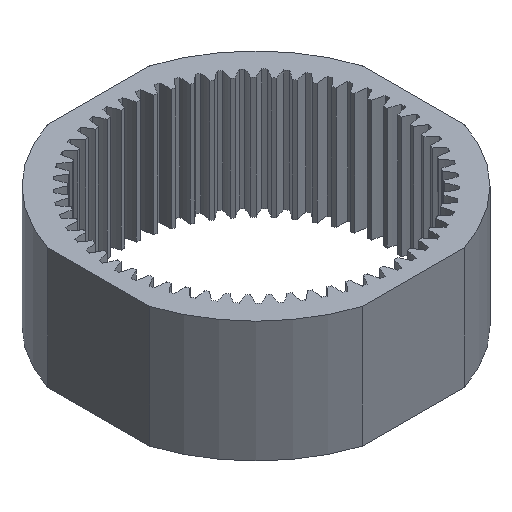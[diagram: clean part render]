
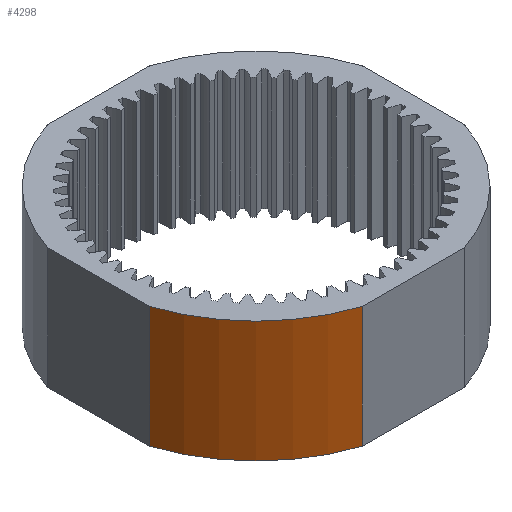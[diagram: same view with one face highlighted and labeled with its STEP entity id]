
A CAD part, isometric view. The second image highlights one B-rep face of the part: STEP entity #4298.
In plain terms, the highlighted cylindrical face has radius 205 mm (diameter 410 mm), a partial arc.
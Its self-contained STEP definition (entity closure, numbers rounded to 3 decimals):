
#28=CYLINDRICAL_SURFACE('',#4805,205.);
#262=CIRCLE('',#4572,205.);
#494=CIRCLE('',#4806,205.);
#730=FACE_OUTER_BOUND('',#969,.T.);
#969=EDGE_LOOP('',(#3123,#3124,#3125,#3126));
#1209=LINE('',#6951,#1453);
#1211=LINE('',#6956,#1455);
#1453=VECTOR('',#5288,10.);
#1455=VECTOR('',#5292,10.);
#1697=VERTEX_POINT('',#6948);
#1698=VERTEX_POINT('',#6950);
#1699=VERTEX_POINT('',#6954);
#1700=VERTEX_POINT('',#6955);
#2169=EDGE_CURVE('',#1698,#1697,#1209,.T.);
#2171=EDGE_CURVE('',#1699,#1700,#1211,.T.);
#2176=EDGE_CURVE('',#1698,#1700,#262,.T.);
#2410=EDGE_CURVE('',#1697,#1699,#494,.T.);
#3123=ORIENTED_EDGE('',*,*,#2169,.T.);
#3124=ORIENTED_EDGE('',*,*,#2410,.T.);
#3125=ORIENTED_EDGE('',*,*,#2171,.T.);
#3126=ORIENTED_EDGE('',*,*,#2176,.F.);
#4298=ADVANCED_FACE('',(#730),#28,.T.);
#4572=AXIS2_PLACEMENT_3D('',#6964,#5300,#5301);
#4805=AXIS2_PLACEMENT_3D('',#7430,#5768,#5769);
#4806=AXIS2_PLACEMENT_3D('',#7431,#5770,#5771);
#5288=DIRECTION('',(0.,0.,1.));
#5292=DIRECTION('',(0.,0.,-1.));
#5300=DIRECTION('center_axis',(0.,0.,-1.));
#5301=DIRECTION('ref_axis',(-1.,0.,0.));
#5768=DIRECTION('center_axis',(0.,0.,1.));
#5769=DIRECTION('ref_axis',(-1.,0.,0.));
#5770=DIRECTION('center_axis',(0.,0.,-1.));
#5771=DIRECTION('ref_axis',(-1.,0.,0.));
#6948=CARTESIAN_POINT('',(-63.246,-195.,150.));
#6950=CARTESIAN_POINT('',(-63.246,-195.,0.));
#6951=CARTESIAN_POINT('',(-63.246,-195.,0.));
#6954=CARTESIAN_POINT('',(-195.,-63.246,150.));
#6955=CARTESIAN_POINT('',(-195.,-63.246,0.));
#6956=CARTESIAN_POINT('',(-195.,-63.246,0.));
#6964=CARTESIAN_POINT('Origin',(0.,0.,0.));
#7430=CARTESIAN_POINT('Origin',(0.,0.,0.));
#7431=CARTESIAN_POINT('Origin',(0.,0.,150.));
